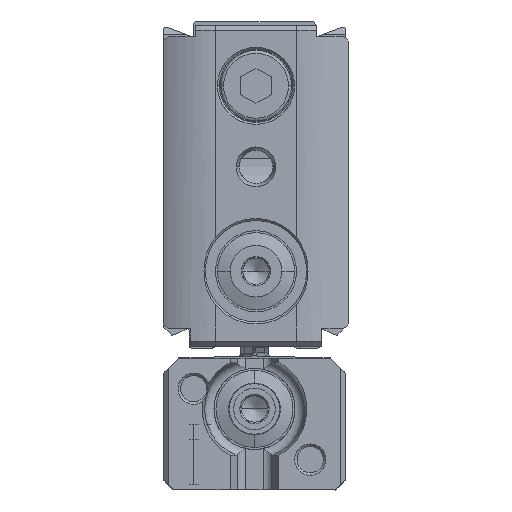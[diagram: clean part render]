
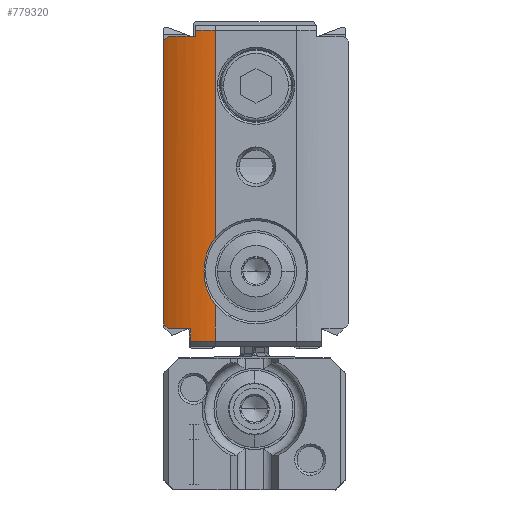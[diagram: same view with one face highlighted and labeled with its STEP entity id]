
A CAD part, left-side view. The second image highlights one B-rep face of the part: STEP entity #779320.
In plain terms, the highlighted cylindrical face has radius 10 mm (diameter 20 mm), a partial arc.
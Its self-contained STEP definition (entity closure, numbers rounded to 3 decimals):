
#773650=CARTESIAN_POINT('',(-513.638,34.15,
-50.083));
#773660=VERTEX_POINT('',#773650);
#774150=CARTESIAN_POINT('',(-513.333,31.7,
-50.083));
#774160=VERTEX_POINT('',#774150);
#774190=CARTESIAN_POINT('',(-503.638,34.15,
-50.083));
#774200=DIRECTION('',(0.,0.,-1.));
#774210=DIRECTION('',(0.,-1.,0.));
#774220=AXIS2_PLACEMENT_3D('',#774190,#774200,#774210);
#774230=CIRCLE('',#774220,10.);
#774240=EDGE_CURVE('',#774160,#773660,#774230,.T.);
#777810=CARTESIAN_POINT('',(-503.638,34.15,
-51.283));
#777820=DIRECTION('',(0.,0.,-1.));
#777830=DIRECTION('',(0.,-1.,0.));
#777840=AXIS2_PLACEMENT_3D('',#777810,#777820,#777830);
#777850=CIRCLE('',#777840,10.);
#777860=CARTESIAN_POINT('',(-512.491,29.5,
-51.283));
#777870=VERTEX_POINT('',#777860);
#777880=CARTESIAN_POINT('',(-513.333,31.7,
-51.283));
#777890=VERTEX_POINT('',#777880);
#777900=EDGE_CURVE('',#777870,#777890,#777850,.T.);
#778190=CARTESIAN_POINT('',(-513.333,31.7,
-81.283));
#778200=DIRECTION('',(0.,0.,-1.));
#778210=VECTOR('',#778200,1.);
#778220=LINE('',#778190,#778210);
#778230=EDGE_CURVE('',#774160,#777890,#778220,.T.);
#778300=CARTESIAN_POINT('',(-503.638,34.15,
-81.283));
#778310=DIRECTION('',(0.,0.,-1.));
#778320=DIRECTION('',(0.,-1.,0.));
#778330=AXIS2_PLACEMENT_3D('',#778300,#778310,#778320);
#778340=CYLINDRICAL_SURFACE('',#778330,10.);
#778350=ORIENTED_EDGE('',*,*,#778230,.F.);
#778360=ORIENTED_EDGE('',*,*,#777900,.T.);
#778370=CARTESIAN_POINT('',(-503.638,34.15,
-46.633));
#778380=DIRECTION('',(0.,-0.707,
0.707));
#778390=DIRECTION('',(0.,-0.707,
-0.707));
#778400=AXIS2_PLACEMENT_3D('',#778370,#778380,#778390);
#778410=ELLIPSE('',#778400,14.142,10.);
#778420=CARTESIAN_POINT('',(-512.21,29.,
-51.783));
#778430=VERTEX_POINT('',#778420);
#778440=EDGE_CURVE('',#777870,#778430,#778410,.T.);
#778450=ORIENTED_EDGE('',*,*,#778440,.F.);
#778460=CARTESIAN_POINT('',(-512.21,29.,
-81.283));
#778470=DIRECTION('',(0.,0.,-1.));
#778480=VECTOR('',#778470,1.);
#778490=LINE('',#778460,#778480);
#778500=CARTESIAN_POINT('',(-512.21,29.,
-79.683));
#778510=VERTEX_POINT('',#778500);
#778520=EDGE_CURVE('',#778430,#778510,#778490,.T.);
#778530=ORIENTED_EDGE('',*,*,#778520,.F.);
#778540=CARTESIAN_POINT('',(-503.638,34.15,
-84.833));
#778550=DIRECTION('',(0.,-0.707,
-0.707));
#778560=DIRECTION('',(0.,-0.707,
0.707));
#778570=AXIS2_PLACEMENT_3D('',#778540,#778550,#778560);
#778580=ELLIPSE('',#778570,14.142,10.);
#778590=CARTESIAN_POINT('',(-512.491,29.5,
-80.183));
#778600=VERTEX_POINT('',#778590);
#778610=EDGE_CURVE('',#778510,#778600,#778580,.T.);
#778620=ORIENTED_EDGE('',*,*,#778610,.F.);
#778630=CARTESIAN_POINT('',(-503.638,34.15,
-80.183));
#778640=DIRECTION('',(0.,0.,-1.));
#778650=DIRECTION('',(0.,-1.,0.));
#778660=AXIS2_PLACEMENT_3D('',#778630,#778640,#778650);
#778670=CIRCLE('',#778660,10.);
#778680=CARTESIAN_POINT('',(-513.436,32.15,
-80.183));
#778690=VERTEX_POINT('',#778680);
#778700=EDGE_CURVE('',#778600,#778690,#778670,.T.);
#778710=ORIENTED_EDGE('',*,*,#778700,.F.);
#778720=CARTESIAN_POINT('',(-513.436,32.15,
-81.283));
#778730=DIRECTION('',(0.,0.,-1.));
#778740=VECTOR('',#778730,1.);
#778750=LINE('',#778720,#778740);
#778760=CARTESIAN_POINT('',(-513.436,32.15,
-80.783));
#778770=VERTEX_POINT('',#778760);
#778780=EDGE_CURVE('',#778690,#778770,#778750,.T.);
#778790=ORIENTED_EDGE('',*,*,#778780,.F.);
#778800=CARTESIAN_POINT('',(-503.638,34.15,
-80.783));
#778810=DIRECTION('',(0.,0.,-1.));
#778820=DIRECTION('',(0.,-1.,0.));
#778830=AXIS2_PLACEMENT_3D('',#778800,#778810,#778820);
#778840=CIRCLE('',#778830,10.);
#778850=CARTESIAN_POINT('',(-513.638,34.15,
-80.783));
#778860=VERTEX_POINT('',#778850);
#778870=EDGE_CURVE('',#778770,#778860,#778840,.T.);
#778880=ORIENTED_EDGE('',*,*,#778870,.F.);
#778890=CARTESIAN_POINT('',(-513.638,34.15,
-37.853));
#778900=DIRECTION('',(0.,0.,-1.));
#778910=VECTOR('',#778900,1.);
#778920=LINE('',#778890,#778910);
#778930=CARTESIAN_POINT('',(-513.638,34.15,
-60.306));
#778940=VERTEX_POINT('',#778930);
#778950=EDGE_CURVE('',#778940,#778860,#778920,.T.);
#778960=ORIENTED_EDGE('',*,*,#778950,.T.);
#778970=CARTESIAN_POINT('',(-513.573,33.015,
-56.983));
#778980=CARTESIAN_POINT('',(-513.573,33.015,
-57.28));
#778990=CARTESIAN_POINT('',(-513.576,33.038,
-57.579));
#779000=CARTESIAN_POINT('',(-513.586,33.132,
-58.17));
#779010=CARTESIAN_POINT('',(-513.593,33.202,
-58.462));
#779020=CARTESIAN_POINT('',(-513.609,33.39,
-59.027));
#779030=CARTESIAN_POINT('',(-513.618,33.507,
-59.3));
#779040=CARTESIAN_POINT('',(-513.632,33.792,
-59.826));
#779050=CARTESIAN_POINT('',(-513.638,33.96,
-60.077));
#779060=CARTESIAN_POINT('',(-513.638,34.15,
-60.306));
#779070=B_SPLINE_CURVE_WITH_KNOTS('',3,(#778970,#778980,#778990,#779000,
#779010,#779020,#779030,#779040,#779050,#779060),.UNSPECIFIED.,.F.,.F.,(
4,2,2,2,4),(0.,0.896,1.794,2.688,
3.586),.UNSPECIFIED.);
#779080=CARTESIAN_POINT('',(-513.573,33.015,
-56.983));
#779090=VERTEX_POINT('',#779080);
#779100=EDGE_CURVE('',#779090,#778940,#779070,.T.);
#779110=ORIENTED_EDGE('',*,*,#779100,.T.);
#779120=CARTESIAN_POINT('',(-513.638,34.15,
-53.66));
#779130=CARTESIAN_POINT('',(-513.638,33.96,
-53.89));
#779140=CARTESIAN_POINT('',(-513.632,33.792,
-54.14));
#779150=CARTESIAN_POINT('',(-513.618,33.507,
-54.666));
#779160=CARTESIAN_POINT('',(-513.609,33.39,
-54.939));
#779170=CARTESIAN_POINT('',(-513.593,33.202,
-55.504));
#779180=CARTESIAN_POINT('',(-513.586,33.132,
-55.796));
#779190=CARTESIAN_POINT('',(-513.576,33.038,
-56.388));
#779200=CARTESIAN_POINT('',(-513.573,33.015,
-56.687));
#779210=CARTESIAN_POINT('',(-513.573,33.015,
-56.983));
#779220=B_SPLINE_CURVE_WITH_KNOTS('',3,(#779120,#779130,#779140,#779150,
#779160,#779170,#779180,#779190,#779200,#779210),.UNSPECIFIED.,.F.,.F.,(
4,2,2,2,4),(0.,0.898,1.792,2.69,
3.586),.UNSPECIFIED.);
#779230=CARTESIAN_POINT('',(-513.638,34.15,
-53.66));
#779240=VERTEX_POINT('',#779230);
#779250=EDGE_CURVE('',#779240,#779090,#779220,.T.);
#779260=ORIENTED_EDGE('',*,*,#779250,.T.);
#779270=EDGE_CURVE('',#773660,#779240,#778920,.T.);
#779280=ORIENTED_EDGE('',*,*,#779270,.T.);
#779290=ORIENTED_EDGE('',*,*,#774240,.T.);
#779300=EDGE_LOOP('',(#779290,#779280,#779260,#779110,#778960,#778880,
#778790,#778710,#778620,#778530,#778450,#778360,#778350));
#779310=FACE_OUTER_BOUND('',#779300,.T.);
#779320=ADVANCED_FACE('',(#779310),#778340,.T.);
